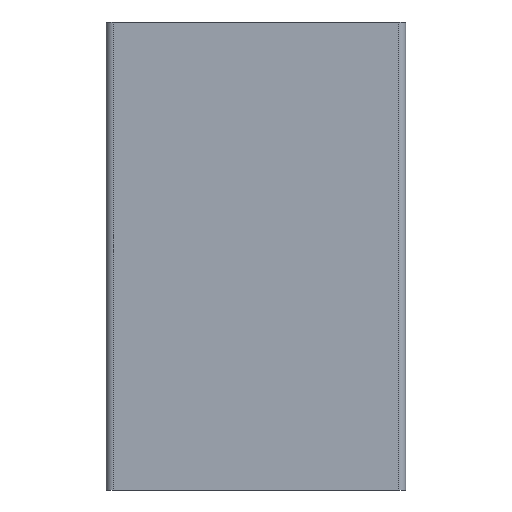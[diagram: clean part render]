
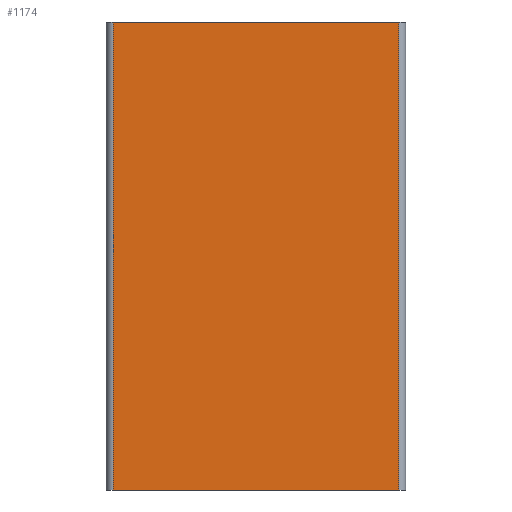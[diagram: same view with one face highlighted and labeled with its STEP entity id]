
A CAD part, front view. The second image highlights one B-rep face of the part: STEP entity #1174.
In plain terms, the highlighted planar face has unit normal (0, -1, 0).
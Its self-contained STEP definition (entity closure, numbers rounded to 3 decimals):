
#26 = EDGE_CURVE ( 'NONE', #107, #114, #340, .T. ) ;
#107 = VERTEX_POINT ( 'NONE', #866 ) ;
#114 = VERTEX_POINT ( 'NONE', #871 ) ;
#180 = ORIENTED_EDGE ( 'NONE', *, *, #26, .T. ) ;
#184 = EDGE_CURVE ( 'NONE', #107, #1210, #464, .T. ) ;
#189 = EDGE_CURVE ( 'NONE', #1210, #1057, #483, .T. ) ;
#201 = ORIENTED_EDGE ( 'NONE', *, *, #189, .F. ) ;
#217 = ORIENTED_EDGE ( 'NONE', *, *, #1271, .T. ) ;
#237 = EDGE_LOOP ( 'NONE', ( #217, #201, #1246, #180 ) ) ;
#340 = LINE ( 'NONE', #341, #342 ) ;
#341 = CARTESIAN_POINT ( 'NONE',  ( -15.25, 0., 50. ) ) ;
#342 = VECTOR ( 'NONE', #343, 1000. ) ;
#343 = DIRECTION ( 'NONE',  ( 0., 0., -1. ) ) ;
#464 = LINE ( 'NONE', #465, #466 ) ;
#465 = CARTESIAN_POINT ( 'NONE',  ( -15.25, 0., 50. ) ) ;
#466 = VECTOR ( 'NONE', #467, 1000. ) ;
#467 = DIRECTION ( 'NONE',  ( 1., 0., 0. ) ) ;
#483 = LINE ( 'NONE', #484, #485 ) ;
#484 = CARTESIAN_POINT ( 'NONE',  ( 15.25, 0., 50. ) ) ;
#485 = VECTOR ( 'NONE', #486, 1000. ) ;
#486 = DIRECTION ( 'NONE',  ( 0., 0., -1. ) ) ;
#626 = LINE ( 'NONE', #627, #628 ) ;
#627 = CARTESIAN_POINT ( 'NONE',  ( -15.25, 0., 0. ) ) ;
#628 = VECTOR ( 'NONE', #629, 1000. ) ;
#629 = DIRECTION ( 'NONE',  ( 1., 0., 0. ) ) ;
#711 = CARTESIAN_POINT ( 'NONE',  ( 15.25, 0., 0. ) ) ;
#811 = FACE_OUTER_BOUND ( 'NONE', #237, .T. ) ;
#812 = PLANE ( 'NONE',  #813 ) ;
#813 = AXIS2_PLACEMENT_3D ( 'NONE', #814, #815, #816 ) ;
#814 = CARTESIAN_POINT ( 'NONE',  ( -15.25, 0., 50. ) ) ;
#815 = DIRECTION ( 'NONE',  ( 0., 1., 0. ) ) ;
#816 = DIRECTION ( 'NONE',  ( 0., 0., 1. ) ) ;
#866 = CARTESIAN_POINT ( 'NONE',  ( -15.25, 0., 50. ) ) ;
#871 = CARTESIAN_POINT ( 'NONE',  ( -15.25, 0., 0. ) ) ;
#976 = CARTESIAN_POINT ( 'NONE',  ( 15.25, 0., 50. ) ) ;
#1057 = VERTEX_POINT ( 'NONE', #711 ) ;
#1174 = ADVANCED_FACE ( 'NONE', ( #811 ), #812, .F. ) ;
#1210 = VERTEX_POINT ( 'NONE', #976 ) ;
#1246 = ORIENTED_EDGE ( 'NONE', *, *, #184, .F. ) ;
#1271 = EDGE_CURVE ( 'NONE', #114, #1057, #626, .T. ) ;
